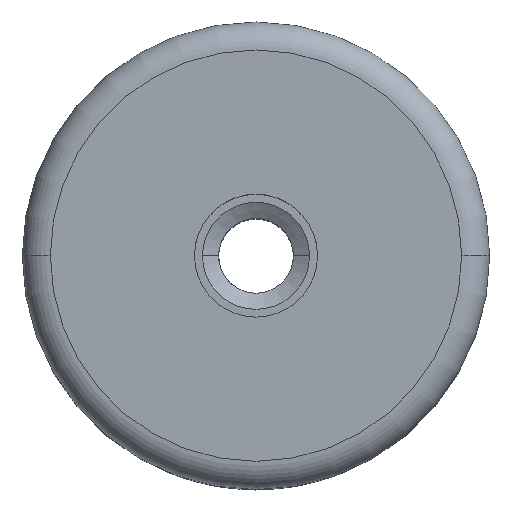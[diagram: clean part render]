
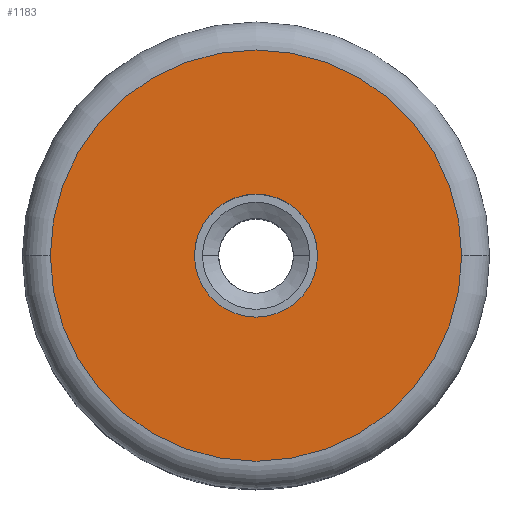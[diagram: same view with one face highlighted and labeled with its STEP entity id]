
A CAD part, top view. The second image highlights one B-rep face of the part: STEP entity #1183.
In plain terms, the highlighted planar face has unit normal (0, 0, 1).
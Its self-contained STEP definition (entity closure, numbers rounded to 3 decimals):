
#31 = DIRECTION ( 'NONE',  ( 0., 0., 1. ) ) ;
#50 = EDGE_CURVE ( 'NONE', #219, #1102, #1539, .T. ) ;
#89 = CARTESIAN_POINT ( 'NONE',  ( 22., 0., 40. ) ) ;
#105 = ORIENTED_EDGE ( 'NONE', *, *, #968, .T. ) ;
#129 = AXIS2_PLACEMENT_3D ( 'NONE', #582, #296, #277 ) ;
#131 = AXIS2_PLACEMENT_3D ( 'NONE', #609, #893, #686 ) ;
#171 = ORIENTED_EDGE ( 'NONE', *, *, #50, .T. ) ;
#219 = VERTEX_POINT ( 'NONE', #406 ) ;
#277 = DIRECTION ( 'NONE',  ( 1., 0., 0. ) ) ;
#281 = AXIS2_PLACEMENT_3D ( 'NONE', #1160, #1410, #1543 ) ;
#287 = EDGE_LOOP ( 'NONE', ( #105, #171 ) ) ;
#296 = DIRECTION ( 'NONE',  ( 0., 0., 1. ) ) ;
#406 = CARTESIAN_POINT ( 'NONE',  ( -22., 0., 40. ) ) ;
#468 = AXIS2_PLACEMENT_3D ( 'NONE', #1254, #31, #1146 ) ;
#475 = CIRCLE ( 'NONE', #131, 6.579 ) ;
#479 = ORIENTED_EDGE ( 'NONE', *, *, #961, .F. ) ;
#564 = CARTESIAN_POINT ( 'NONE',  ( 6.579, 0., 40. ) ) ;
#582 = CARTESIAN_POINT ( 'NONE',  ( 0., 0., 40. ) ) ;
#586 = EDGE_CURVE ( 'NONE', #760, #965, #936, .T. ) ;
#609 = CARTESIAN_POINT ( 'NONE',  ( 0., 0., 40. ) ) ;
#630 = CIRCLE ( 'NONE', #129, 22. ) ;
#686 = DIRECTION ( 'NONE',  ( 1., 0., 0. ) ) ;
#760 = VERTEX_POINT ( 'NONE', #564 ) ;
#893 = DIRECTION ( 'NONE',  ( 0., 0., 1. ) ) ;
#936 = CIRCLE ( 'NONE', #468, 6.579 ) ;
#961 = EDGE_CURVE ( 'NONE', #965, #760, #475, .T. ) ;
#965 = VERTEX_POINT ( 'NONE', #1389 ) ;
#968 = EDGE_CURVE ( 'NONE', #1102, #219, #630, .T. ) ;
#1102 = VERTEX_POINT ( 'NONE', #89 ) ;
#1146 = DIRECTION ( 'NONE',  ( 1., 0., 0. ) ) ;
#1160 = CARTESIAN_POINT ( 'NONE',  ( 0., 0., 40. ) ) ;
#1183 = ADVANCED_FACE ( 'NONE', ( #1358, #1550 ), #1608, .F. ) ;
#1254 = CARTESIAN_POINT ( 'NONE',  ( 0., 0., 40. ) ) ;
#1303 = EDGE_LOOP ( 'NONE', ( #1563, #479 ) ) ;
#1358 = FACE_BOUND ( 'NONE', #1303, .T. ) ;
#1389 = CARTESIAN_POINT ( 'NONE',  ( -6.579, 0., 40. ) ) ;
#1410 = DIRECTION ( 'NONE',  ( 0., 0., 1. ) ) ;
#1423 = AXIS2_PLACEMENT_3D ( 'NONE', #1562, #1558, #1556 ) ;
#1539 = CIRCLE ( 'NONE', #281, 22. ) ;
#1543 = DIRECTION ( 'NONE',  ( 1., 0., 0. ) ) ;
#1550 = FACE_OUTER_BOUND ( 'NONE', #287, .T. ) ;
#1556 = DIRECTION ( 'NONE',  ( -1., 0., 0. ) ) ;
#1558 = DIRECTION ( 'NONE',  ( 0., 0., -1. ) ) ;
#1562 = CARTESIAN_POINT ( 'NONE',  ( 0., 22., 40. ) ) ;
#1563 = ORIENTED_EDGE ( 'NONE', *, *, #586, .F. ) ;
#1608 = PLANE ( 'NONE',  #1423 ) ;
